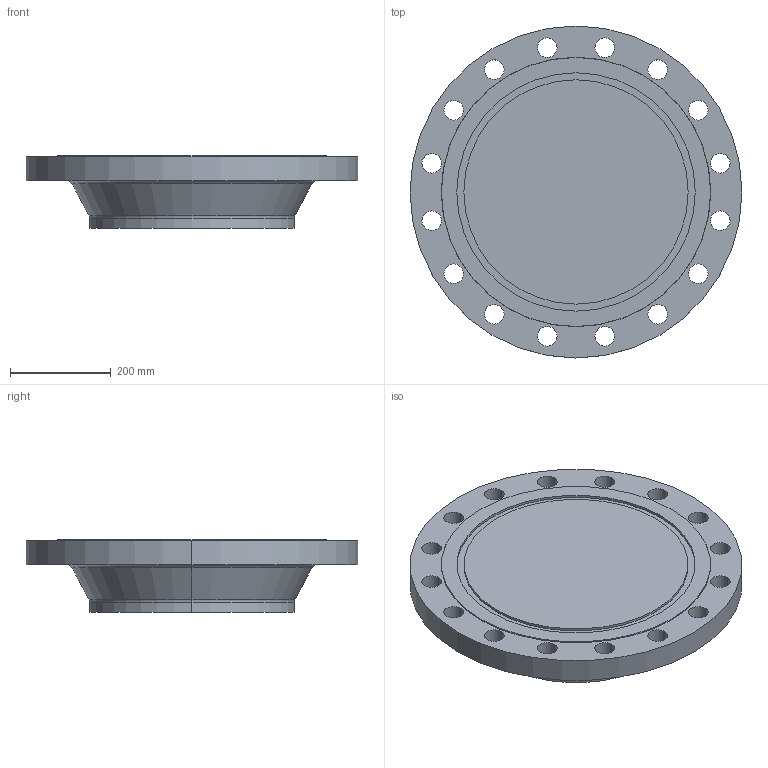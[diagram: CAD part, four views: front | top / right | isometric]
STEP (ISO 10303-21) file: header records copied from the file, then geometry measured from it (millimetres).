
FILE_DESCRIPTION (( 'STEP AP214' ), '1' );
FILE_NAME ('PN40 DN400 Type 21(ii) - Type D Face.STEP', '2019-01-05T23:11:00', ( '' ), ( '' ), 'SwSTEP 2.0', 'SolidWorks 2019', '' );
FILE_SCHEMA (( 'AUTOMOTIVE_DESIGN' ));
Length unit declared in the file: millimetre
Products named in the file (1): PN40 DN400 Type 21(ii) - Type D Face
Bounding box: 660 x 660 x 145 mm (x, y, z)
Volume: 30077501 mm3; surface area: 944221.3 mm2
Topology: 1 solids, 1 shells, 54 faces, 138 edges, 90 vertices
Faces by surface type: cylinder 40, plane 6, torus 4, cone 4
Entity records: 1786 total; most frequent: DIRECTION 342, CARTESIAN_POINT 283, ORIENTED_EDGE 276, AXIS2_PLACEMENT_3D 149, EDGE_CURVE 138, CIRCLE 94, EDGE_LOOP 90, VERTEX_POINT 90
